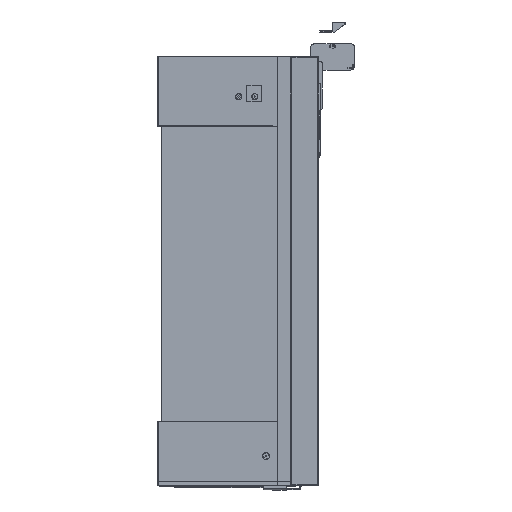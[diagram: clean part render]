
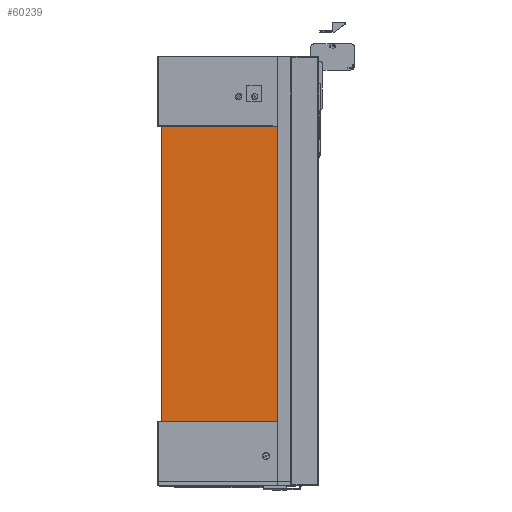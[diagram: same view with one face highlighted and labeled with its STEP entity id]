
A CAD part, left-side view. The second image highlights one B-rep face of the part: STEP entity #60239.
In plain terms, the highlighted planar face has unit normal (-1, 0, 0).
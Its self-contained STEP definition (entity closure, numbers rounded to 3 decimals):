
#2330 = VECTOR ( 'NONE', #28024, 1000. ) ;
#3284 = LINE ( 'NONE', #17551, #2330 ) ;
#3911 = CARTESIAN_POINT ( 'NONE',  ( 2.75, -283.694, -418. ) ) ;
#3969 = ORIENTED_EDGE ( 'NONE', *, *, #56756, .T. ) ;
#6491 = CARTESIAN_POINT ( 'NONE',  ( 2.75, 59.4, -418. ) ) ;
#8387 = LINE ( 'NONE', #55457, #19113 ) ;
#8980 = LINE ( 'NONE', #61011, #21629 ) ;
#9460 = FACE_OUTER_BOUND ( 'NONE', #38371, .T. ) ;
#9559 = CARTESIAN_POINT ( 'NONE',  ( 2.75, 196.4, -418. ) ) ;
#13651 = DIRECTION ( 'NONE',  ( 0., 1., 0. ) ) ;
#14119 = DIRECTION ( 'NONE',  ( 1., 0., 0. ) ) ;
#16378 = VERTEX_POINT ( 'NONE', #9559 ) ;
#17551 = CARTESIAN_POINT ( 'NONE',  ( 2.75, 59.4, -418. ) ) ;
#18005 = CARTESIAN_POINT ( 'NONE',  ( 2.75, -283.694, -418. ) ) ;
#19113 = VECTOR ( 'NONE', #22942, 1000. ) ;
#21629 = VECTOR ( 'NONE', #13651, 1000. ) ;
#22833 = VECTOR ( 'NONE', #36861, 1000. ) ;
#22942 = DIRECTION ( 'NONE',  ( 0., 0., -1. ) ) ;
#23595 = CARTESIAN_POINT ( 'NONE',  ( 2.75, 59.4, -79. ) ) ;
#25891 = ORIENTED_EDGE ( 'NONE', *, *, #59373, .F. ) ;
#27283 = LINE ( 'NONE', #18005, #22833 ) ;
#28024 = DIRECTION ( 'NONE',  ( 0., 0., -1. ) ) ;
#28352 = DIRECTION ( 'NONE',  ( 0., 0., -1. ) ) ;
#35600 = AXIS2_PLACEMENT_3D ( 'NONE', #3911, #14119, #28352 ) ;
#36861 = DIRECTION ( 'NONE',  ( 0., 1., 0. ) ) ;
#36874 = EDGE_CURVE ( 'NONE', #52191, #16378, #8387, .T. ) ;
#38371 = EDGE_LOOP ( 'NONE', ( #54803, #3969, #60381, #25891 ) ) ;
#38636 = CARTESIAN_POINT ( 'NONE',  ( 2.75, 196.4, -79. ) ) ;
#41044 = VERTEX_POINT ( 'NONE', #6491 ) ;
#43971 = VERTEX_POINT ( 'NONE', #23595 ) ;
#47602 = EDGE_CURVE ( 'NONE', #43971, #41044, #3284, .T. ) ;
#52191 = VERTEX_POINT ( 'NONE', #38636 ) ;
#54803 = ORIENTED_EDGE ( 'NONE', *, *, #47602, .F. ) ;
#55457 = CARTESIAN_POINT ( 'NONE',  ( 2.75, 196.4, -418. ) ) ;
#56534 = PLANE ( 'NONE',  #35600 ) ;
#56756 = EDGE_CURVE ( 'NONE', #43971, #52191, #8980, .T. ) ;
#59373 = EDGE_CURVE ( 'NONE', #41044, #16378, #27283, .T. ) ;
#60239 = ADVANCED_FACE ( 'NONE', ( #9460 ), #56534, .F. ) ;
#60381 = ORIENTED_EDGE ( 'NONE', *, *, #36874, .T. ) ;
#61011 = CARTESIAN_POINT ( 'NONE',  ( 2.75, -283.694, -79. ) ) ;
